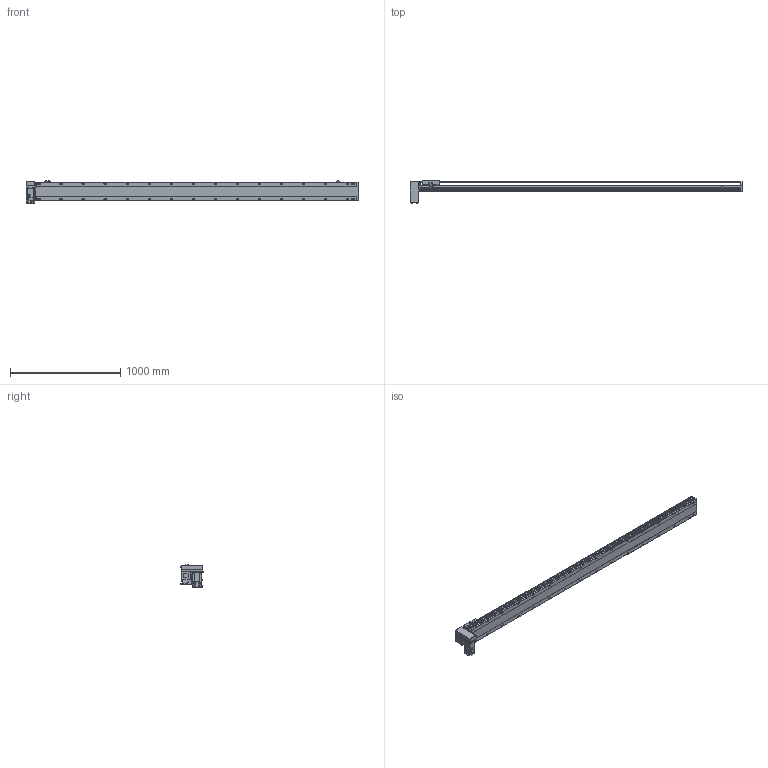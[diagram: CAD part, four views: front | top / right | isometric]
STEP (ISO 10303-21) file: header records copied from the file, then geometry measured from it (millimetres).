
FILE_DESCRIPTION(/* description */ ('STEP AP214'),/* implementation_level */ '2;1');
FILE_NAME(/* name */ 'PBS170-P40-S2650-RD-T75-C1-N(0)',/* time_stamp */ '2022-06-08T07:38:04+02:00',/* author */ ('License CC BY-ND 4.0'),/* organization */ ('CADENAS'),/* preprocessor_version */ 'ST-DEVELOPER v18.102',/* originating_system */ 'PARTsolutions',/* authorisation */ ' ');
FILE_SCHEMA (('AUTOMOTIVE_DESIGN {1 0 10303 214 3 1 1}'));
Length unit declared in the file: millimetre
Products named in the file (7): PBS170-P40-S2650-RD-T75-C1-N(0); PBS170_sensor; PBS170_plant; PBS170_sliser; T75-p1; PBS170T-RD_motors; PBS170-S2650()_body
Assembly tree (8 placements, depth 2):
  PBS170-P40-S2650-RD-T75-C1-N(0)
    PBS170_sensor  x3
    PBS170_plant
    PBS170_sliser
    T75-p1
    PBS170T-RD_motors
    PBS170-S2650()_body
Bounding box: 3013 x 201 x 205.3 mm (x, y, z)
Volume: 22744425.9 mm3; surface area: 2859692.9 mm2
Topology: 8 solids, 8 shells, 1210 faces, 3195 edges, 2082 vertices
Faces by surface type: plane 735, cylinder 403, cone 62, sphere 8, torus 2
Full cylindrical faces by diameter (mm): 3.242 x4, 4 x2, 4.4 x4, 4.5 x6, 4.917 x4, 6 x9, 6.647 x40, 7 x2, 7.5 x4, 8 x8, 8.5 x32, 10 x4, 10.5 x32, 11 x2, 30 x2, 40 x1, 70 x1
Entity records: 34782 total; most frequent: CARTESIAN_POINT 6609, DIRECTION 5860, ORIENTED_EDGE 5508, EDGE_CURVE 2754, AXIS2_PLACEMENT_3D 2077, VERTEX_POINT 1922, LINE 1706, VECTOR 1706
